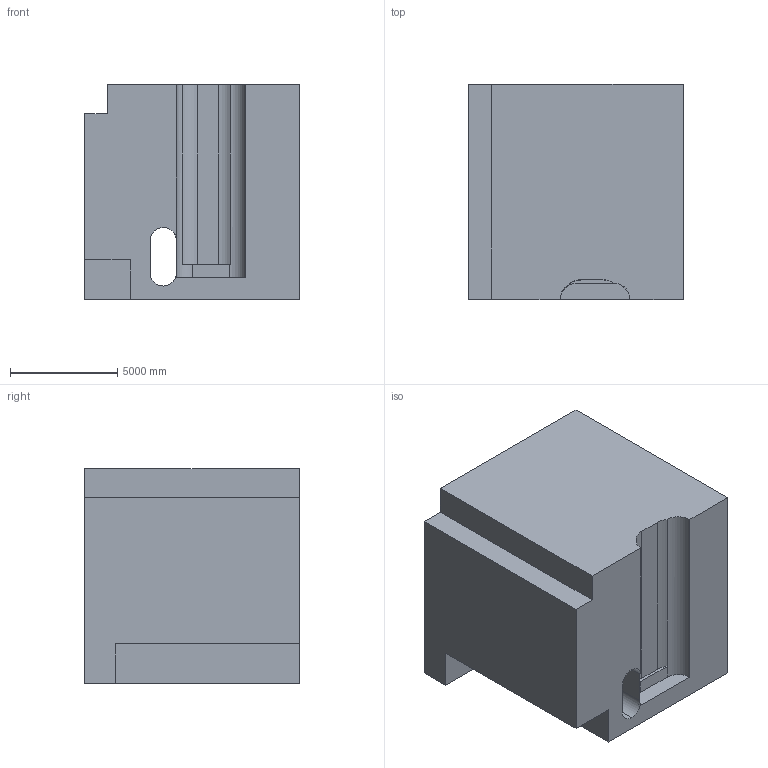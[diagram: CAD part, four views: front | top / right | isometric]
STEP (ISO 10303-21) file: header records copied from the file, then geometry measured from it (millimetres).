
FILE_DESCRIPTION (( 'STEP AP203' ), '1' );
FILE_NAME ('158.STEP', '2022-08-31T12:01:01', ( 'user' ), ( '' ), 'SwSTEP 2.0', 'SolidWorks 2021', '' );
FILE_SCHEMA (( 'CONFIG_CONTROL_DESIGN' ));
Length unit declared in the file: centimetre
Products named in the file (1): 158
Bounding box: 10000 x 10000 x 10000 mm (x, y, z)
Volume: 828309502078.7 mm3; surface area: 718767648.1 mm2
Topology: 1 solids, 1 shells, 37 faces, 111 edges, 74 vertices
Faces by surface type: plane 25, cylinder 12
Entity records: 1549 total; most frequent: CARTESIAN_POINT 450, ORIENTED_EDGE 222, DIRECTION 208, EDGE_CURVE 111, LINE 80, VECTOR 80, VERTEX_POINT 74, AXIS2_PLACEMENT_3D 64
